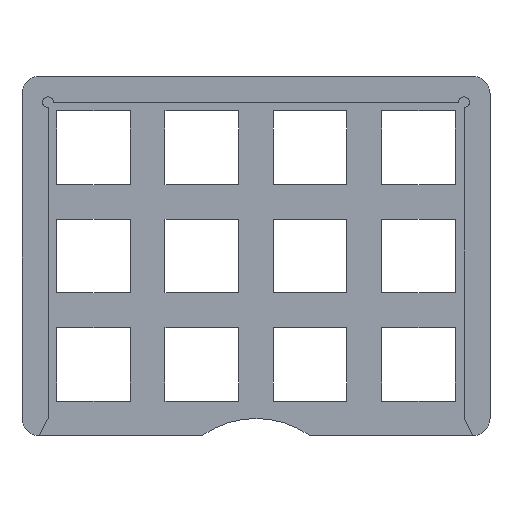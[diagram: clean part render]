
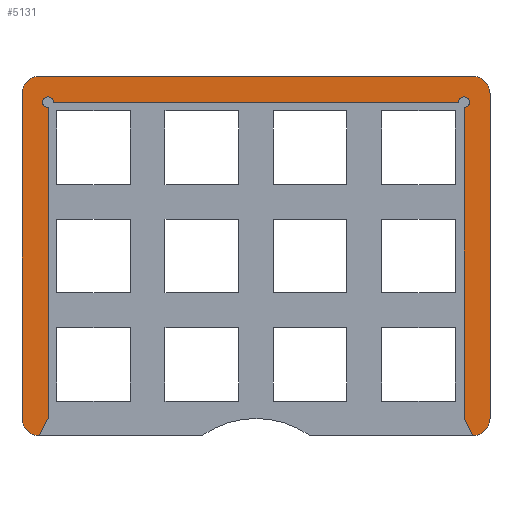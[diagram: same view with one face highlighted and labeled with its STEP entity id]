
A CAD part, top view. The second image highlights one B-rep face of the part: STEP entity #5131.
In plain terms, the highlighted planar face has unit normal (0, 0, 1).
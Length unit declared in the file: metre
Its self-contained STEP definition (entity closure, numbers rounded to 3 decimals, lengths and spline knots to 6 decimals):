
#70=CIRCLE('',#5429,0.008);
#71=CIRCLE('',#5430,0.008);
#72=CIRCLE('',#5431,0.008);
#73=CIRCLE('',#5432,0.008);
#74=CIRCLE('',#5433,0.0025);
#75=CIRCLE('',#5434,0.0025);
#302=LINE('',#7486,#997);
#303=LINE('',#7491,#998);
#304=LINE('',#7495,#999);
#305=LINE('',#7499,#1000);
#306=LINE('',#7503,#1001);
#307=LINE('',#7505,#1002);
#308=LINE('',#7509,#1003);
#309=LINE('',#7513,#1004);
#997=VECTOR('',#5956,1.);
#998=VECTOR('',#5959,1.);
#999=VECTOR('',#5962,1.);
#1000=VECTOR('',#5965,1.);
#1001=VECTOR('',#5968,1.);
#1002=VECTOR('',#5969,1.);
#1003=VECTOR('',#5972,1.);
#1004=VECTOR('',#5975,1.);
#1713=ORIENTED_EDGE('',*,*,#3239,.F.);
#1714=ORIENTED_EDGE('',*,*,#3240,.T.);
#1715=ORIENTED_EDGE('',*,*,#3241,.F.);
#1716=ORIENTED_EDGE('',*,*,#3242,.T.);
#1717=ORIENTED_EDGE('',*,*,#3243,.T.);
#1718=ORIENTED_EDGE('',*,*,#3244,.T.);
#1719=ORIENTED_EDGE('',*,*,#3245,.T.);
#1720=ORIENTED_EDGE('',*,*,#3246,.T.);
#1721=ORIENTED_EDGE('',*,*,#3247,.T.);
#1722=ORIENTED_EDGE('',*,*,#3248,.F.);
#1723=ORIENTED_EDGE('',*,*,#3249,.F.);
#1724=ORIENTED_EDGE('',*,*,#3250,.F.);
#1725=ORIENTED_EDGE('',*,*,#3251,.F.);
#1726=ORIENTED_EDGE('',*,*,#3252,.T.);
#3239=EDGE_CURVE('',#4002,#4003,#302,.T.);
#3240=EDGE_CURVE('',#4002,#4004,#70,.T.);
#3241=EDGE_CURVE('',#4005,#4004,#303,.T.);
#3242=EDGE_CURVE('',#4005,#4006,#71,.T.);
#3243=EDGE_CURVE('',#4006,#4007,#304,.T.);
#3244=EDGE_CURVE('',#4007,#4008,#72,.T.);
#3245=EDGE_CURVE('',#4008,#4009,#305,.T.);
#3246=EDGE_CURVE('',#4009,#4010,#73,.T.);
#3247=EDGE_CURVE('',#4010,#4011,#306,.T.);
#3248=EDGE_CURVE('',#4012,#4011,#307,.T.);
#3249=EDGE_CURVE('',#4013,#4012,#74,.T.);
#3250=EDGE_CURVE('',#4014,#4013,#308,.T.);
#3251=EDGE_CURVE('',#4015,#4014,#75,.T.);
#3252=EDGE_CURVE('',#4015,#4003,#309,.T.);
#4002=VERTEX_POINT('',#7487);
#4003=VERTEX_POINT('',#7488);
#4004=VERTEX_POINT('',#7490);
#4005=VERTEX_POINT('',#7492);
#4006=VERTEX_POINT('',#7494);
#4007=VERTEX_POINT('',#7496);
#4008=VERTEX_POINT('',#7498);
#4009=VERTEX_POINT('',#7500);
#4010=VERTEX_POINT('',#7502);
#4011=VERTEX_POINT('',#7504);
#4012=VERTEX_POINT('',#7506);
#4013=VERTEX_POINT('',#7508);
#4014=VERTEX_POINT('',#7510);
#4015=VERTEX_POINT('',#7512);
#4318=EDGE_LOOP('',(#1713,#1714,#1715,#1716,#1717,#1718,#1719,#1720,#1721,
#1722,#1723,#1724,#1725,#1726));
#4617=FACE_BOUND('',#4318,.T.);
#4899=PLANE('',#5428);
#5131=ADVANCED_FACE('',(#4617),#4899,.T.);
#5428=AXIS2_PLACEMENT_3D('',#7485,#5954,#5955);
#5429=AXIS2_PLACEMENT_3D('',#7489,#5957,#5958);
#5430=AXIS2_PLACEMENT_3D('',#7493,#5960,#5961);
#5431=AXIS2_PLACEMENT_3D('',#7497,#5963,#5964);
#5432=AXIS2_PLACEMENT_3D('',#7501,#5966,#5967);
#5433=AXIS2_PLACEMENT_3D('',#7507,#5970,#5971);
#5434=AXIS2_PLACEMENT_3D('',#7511,#5973,#5974);
#5954=DIRECTION('',(0.,0.,1.));
#5955=DIRECTION('',(1.,0.,0.));
#5956=DIRECTION('',(-0.447,0.894,0.));
#5957=DIRECTION('',(0.,0.,1.));
#5958=DIRECTION('',(1.,0.,0.));
#5959=DIRECTION('',(0.,-1.,0.));
#5960=DIRECTION('',(0.,0.,1.));
#5961=DIRECTION('',(1.,0.,0.));
#5962=DIRECTION('',(-1.,0.,0.));
#5963=DIRECTION('',(0.,0.,1.));
#5964=DIRECTION('',(1.,0.,0.));
#5965=DIRECTION('',(0.,-1.,0.));
#5966=DIRECTION('',(0.,0.,1.));
#5967=DIRECTION('',(1.,0.,0.));
#5968=DIRECTION('',(0.447,0.894,0.));
#5969=DIRECTION('',(0.,-1.,0.));
#5970=DIRECTION('',(0.,0.,1.));
#5971=DIRECTION('',(1.,0.,0.));
#5972=DIRECTION('',(-1.,0.,0.));
#5973=DIRECTION('',(0.,0.,1.));
#5974=DIRECTION('',(1.,0.,0.));
#5975=DIRECTION('',(0.,-1.,0.));
#7485=CARTESIAN_POINT('',(0.075,-0.05,0.006));
#7486=CARTESIAN_POINT('',(0.173,-0.129,0.006));
#7487=CARTESIAN_POINT('',(0.175,-0.133,0.006));
#7488=CARTESIAN_POINT('',(0.171,-0.125,0.006));
#7489=CARTESIAN_POINT('',(0.175,-0.125,0.006));
#7490=CARTESIAN_POINT('',(0.183,-0.125,0.006));
#7491=CARTESIAN_POINT('',(0.183,-0.05,0.006));
#7492=CARTESIAN_POINT('',(0.183,0.025,0.006));
#7493=CARTESIAN_POINT('',(0.175,0.025,0.006));
#7494=CARTESIAN_POINT('',(0.175,0.033,0.006));
#7495=CARTESIAN_POINT('',(0.075,0.033,0.006));
#7496=CARTESIAN_POINT('',(-0.025,0.033,0.006));
#7497=CARTESIAN_POINT('',(-0.025,0.025,0.006));
#7498=CARTESIAN_POINT('',(-0.033,0.025,0.006));
#7499=CARTESIAN_POINT('',(-0.033,-0.05,0.006));
#7500=CARTESIAN_POINT('',(-0.033,-0.125,0.006));
#7501=CARTESIAN_POINT('',(-0.025,-0.125,0.006));
#7502=CARTESIAN_POINT('',(-0.025,-0.133,0.006));
#7503=CARTESIAN_POINT('',(-0.023,-0.129,0.006));
#7504=CARTESIAN_POINT('',(-0.021,-0.125,0.006));
#7505=CARTESIAN_POINT('',(-0.021,-0.05325,0.006));
#7506=CARTESIAN_POINT('',(-0.021,0.0185,0.006));
#7507=CARTESIAN_POINT('',(-0.021,0.021,0.006));
#7508=CARTESIAN_POINT('',(-0.0185,0.021,0.006));
#7509=CARTESIAN_POINT('',(0.075,0.021,0.006));
#7510=CARTESIAN_POINT('',(0.1685,0.021,0.006));
#7511=CARTESIAN_POINT('',(0.171,0.021,0.006));
#7512=CARTESIAN_POINT('',(0.171,0.0185,0.006));
#7513=CARTESIAN_POINT('',(0.171,-0.05325,0.006));
